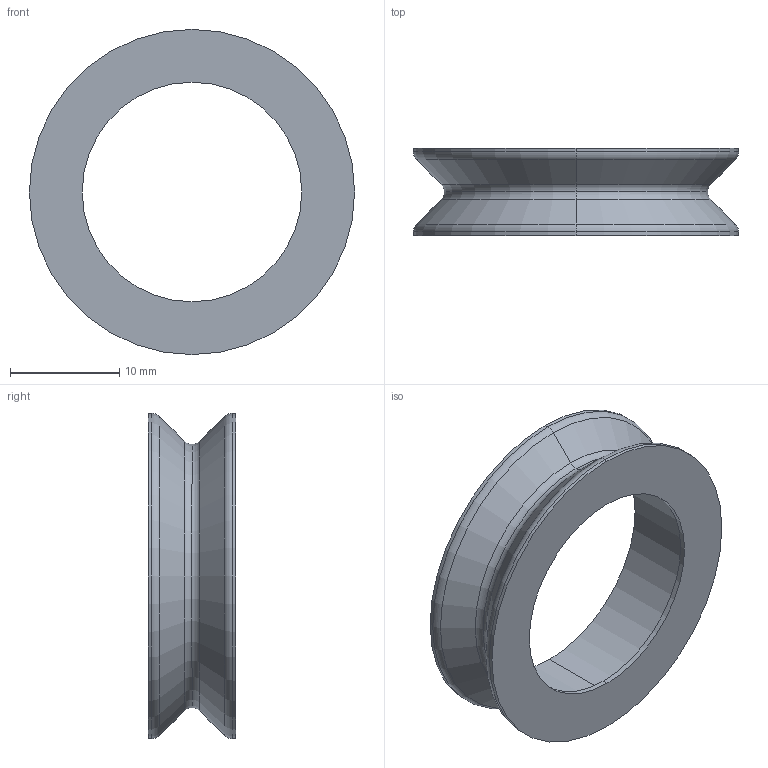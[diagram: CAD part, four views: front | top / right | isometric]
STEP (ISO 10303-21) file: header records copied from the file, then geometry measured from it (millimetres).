
FILE_DESCRIPTION (( 'STEP AP203' ), '1' );
FILE_NAME ('DBP_UPPER_ROLLER_GUIDE_wheel_V3.STEP', '2018-11-07T20:06:49', ( '' ), ( '' ), 'SwSTEP 2.0', 'SolidWorks 2015', '' );
FILE_SCHEMA (( 'CONFIG_CONTROL_DESIGN' ));
Length unit declared in the file: inch
Products named in the file (1): DBP_UPPER_ROLLER_GUIDE_wheel_V3
Bounding box: 29.77 x 8 x 29.77 mm (x, y, z)
Volume: 1607.2 mm3; surface area: 2147.2 mm2
Topology: 1 solids, 1 shells, 25 faces, 50 edges, 28 vertices
Faces by surface type: torus 8, cylinder 8, cone 6, plane 3
Entity records: 735 total; most frequent: DIRECTION 138, CARTESIAN_POINT 104, ORIENTED_EDGE 100, AXIS2_PLACEMENT_3D 62, EDGE_CURVE 50, CIRCLE 36, VERTEX_POINT 28, EDGE_LOOP 28
